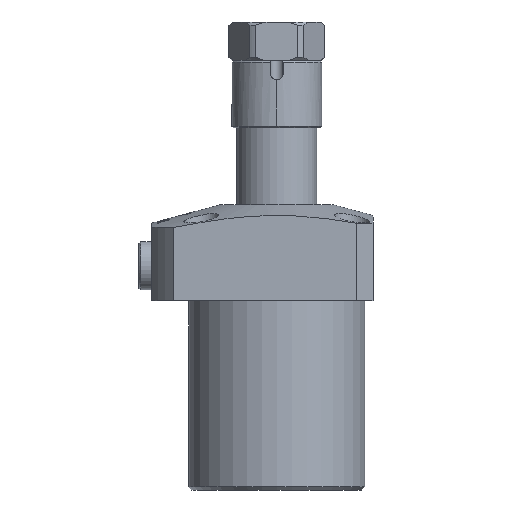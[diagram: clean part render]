
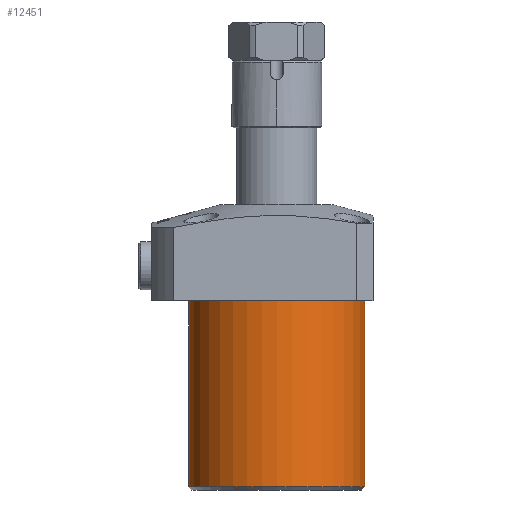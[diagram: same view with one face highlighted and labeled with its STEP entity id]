
A CAD part, front view. The second image highlights one B-rep face of the part: STEP entity #12451.
In plain terms, the highlighted cylindrical face has radius 27.5 mm (diameter 55 mm), a partial arc.
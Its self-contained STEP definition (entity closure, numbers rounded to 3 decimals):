
#64 = CARTESIAN_POINT ( 'NONE',  ( -27.5, 0., -59. ) ) ;
#479 = DIRECTION ( 'NONE',  ( 0., 0., 1. ) ) ;
#571 = AXIS2_PLACEMENT_3D ( 'NONE', #9083, #7786, #6500 ) ;
#776 = ORIENTED_EDGE ( 'NONE', *, *, #12721, .T. ) ;
#915 = VECTOR ( 'NONE', #10382, 1000. ) ;
#2482 = CARTESIAN_POINT ( 'NONE',  ( 27.5, 0., 0. ) ) ;
#3214 = EDGE_CURVE ( 'NONE', #8233, #13281, #10271, .T. ) ;
#3853 = ORIENTED_EDGE ( 'NONE', *, *, #10463, .T. ) ;
#5230 = EDGE_LOOP ( 'NONE', ( #10541, #3853, #13894, #776 ) ) ;
#5248 = VERTEX_POINT ( 'NONE', #5288 ) ;
#5288 = CARTESIAN_POINT ( 'NONE',  ( -27.5, 0., 0. ) ) ;
#6500 = DIRECTION ( 'NONE',  ( 1., 0., 0. ) ) ;
#7374 = LINE ( 'NONE', #64, #915 ) ;
#7375 = AXIS2_PLACEMENT_3D ( 'NONE', #8191, #479, #9493 ) ;
#7404 = DIRECTION ( 'NONE',  ( 0., 0., -1. ) ) ;
#7786 = DIRECTION ( 'NONE',  ( 0., 0., 1. ) ) ;
#8191 = CARTESIAN_POINT ( 'NONE',  ( 0., 0., -58. ) ) ;
#8233 = VERTEX_POINT ( 'NONE', #11202 ) ;
#8537 = CYLINDRICAL_SURFACE ( 'NONE', #571, 27.5 ) ;
#8942 = FACE_OUTER_BOUND ( 'NONE', #5230, .T. ) ;
#9083 = CARTESIAN_POINT ( 'NONE',  ( 0., 0., -59. ) ) ;
#9493 = DIRECTION ( 'NONE',  ( -1., 0., 0. ) ) ;
#10271 = LINE ( 'NONE', #12216, #13678 ) ;
#10325 = AXIS2_PLACEMENT_3D ( 'NONE', #15093, #7404, #16354 ) ;
#10382 = DIRECTION ( 'NONE',  ( 0., 0., 1. ) ) ;
#10463 = EDGE_CURVE ( 'NONE', #14851, #8233, #16583, .T. ) ;
#10541 = ORIENTED_EDGE ( 'NONE', *, *, #10793, .F. ) ;
#10793 = EDGE_CURVE ( 'NONE', #14851, #5248, #7374, .T. ) ;
#11202 = CARTESIAN_POINT ( 'NONE',  ( 27.5, 0., -58. ) ) ;
#11556 = CIRCLE ( 'NONE', #10325, 27.5 ) ;
#12216 = CARTESIAN_POINT ( 'NONE',  ( 27.5, 0., -59. ) ) ;
#12451 = ADVANCED_FACE ( 'NONE', ( #8942 ), #8537, .T. ) ;
#12721 = EDGE_CURVE ( 'NONE', #13281, #5248, #11556, .T. ) ;
#13281 = VERTEX_POINT ( 'NONE', #2482 ) ;
#13678 = VECTOR ( 'NONE', #16227, 1000. ) ;
#13894 = ORIENTED_EDGE ( 'NONE', *, *, #3214, .T. ) ;
#14781 = CARTESIAN_POINT ( 'NONE',  ( -27.5, 0., -58. ) ) ;
#14851 = VERTEX_POINT ( 'NONE', #14781 ) ;
#15093 = CARTESIAN_POINT ( 'NONE',  ( 0., 0., 0. ) ) ;
#16227 = DIRECTION ( 'NONE',  ( 0., 0., 1. ) ) ;
#16354 = DIRECTION ( 'NONE',  ( -1., 0., 0. ) ) ;
#16583 = CIRCLE ( 'NONE', #7375, 27.5 ) ;
